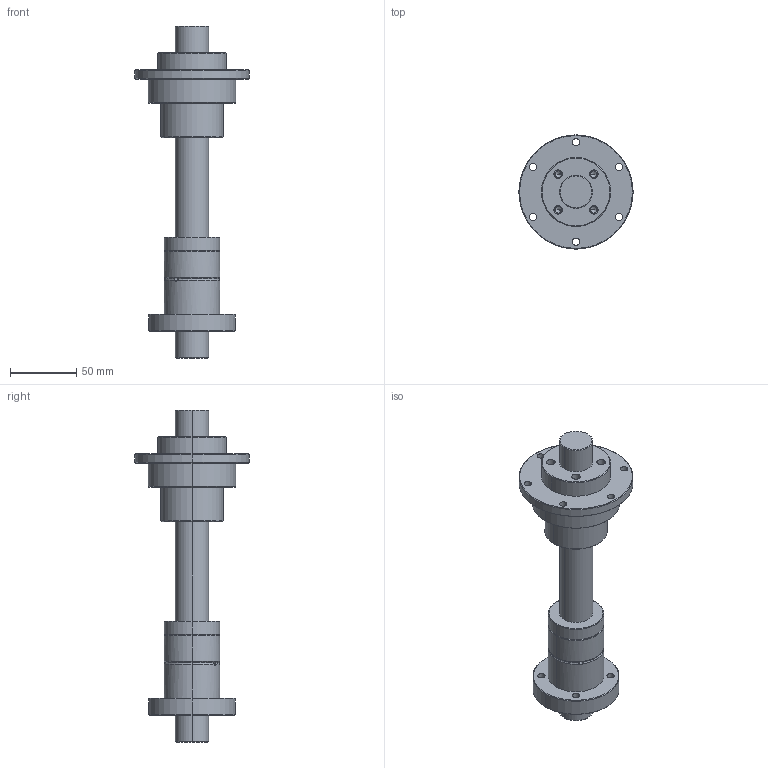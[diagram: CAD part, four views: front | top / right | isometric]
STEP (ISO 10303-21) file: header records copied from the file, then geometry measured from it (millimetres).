
FILE_DESCRIPTION (( 'STEP AP203' ), '1' );
FILE_NAME ('RSLY2525.STEP', '2014-11-13T05:20:16', ( '' ), ( '' ), 'SwSTEP 2.0', 'SolidWorks 2014', '' );
FILE_SCHEMA (( 'CONFIG_CONTROL_DESIGN' ));
Length unit declared in the file: millimetre
Products named in the file (4): SC25; RFSY2525; SLF25; RSLY2525
Assembly tree (3 placements, depth 2):
  RSLY2525
    SC25
    RFSY2525
    SLF25
Bounding box: 86 x 86 x 250 mm (x, y, z)
Volume: 348698.3 mm3; surface area: 75699.5 mm2
Topology: 4 solids, 4 shells, 159 faces, 387 edges, 241 vertices
Faces by surface type: cylinder 84, plane 31, cone 28, torus 16
Entity records: 5324 total; most frequent: CARTESIAN_POINT 1005, DIRECTION 908, ORIENTED_EDGE 758, AXIS2_PLACEMENT_3D 384, EDGE_CURVE 379, VERTEX_POINT 241, CIRCLE 219, EDGE_LOOP 202
